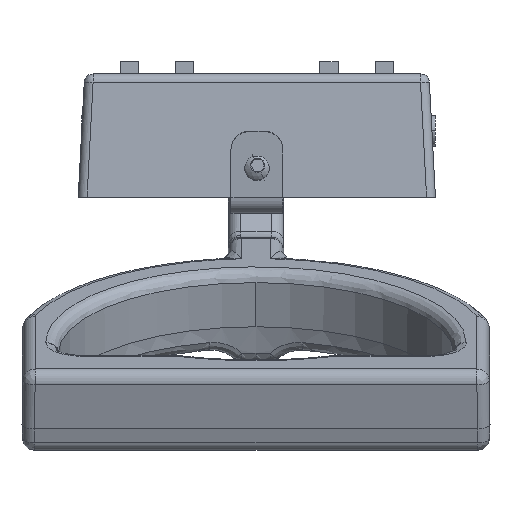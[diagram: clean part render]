
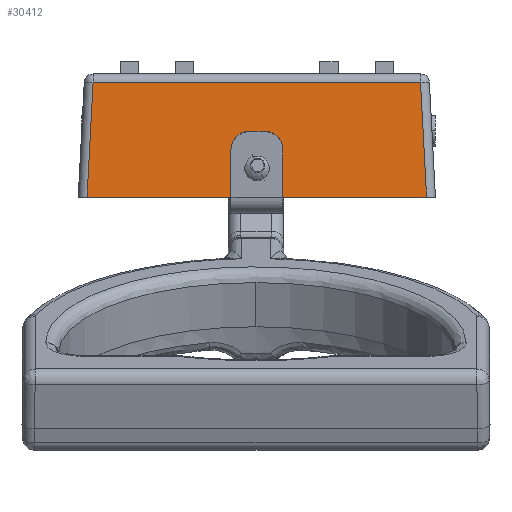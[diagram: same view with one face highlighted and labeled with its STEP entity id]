
A CAD part, front view. The second image highlights one B-rep face of the part: STEP entity #30412.
In plain terms, the highlighted planar face has unit normal (0, -0.999, 0.052).
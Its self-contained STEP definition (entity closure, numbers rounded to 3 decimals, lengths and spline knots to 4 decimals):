
#559 = AXIS2_PLACEMENT_3D ( 'NONE', #37366, #6137, #47851 ) ;
#1744 = PLANE ( 'NONE',  #559 ) ;
#1779 = CARTESIAN_POINT ( 'NONE',  ( 1.7226, -3.0625, 0. ) ) ;
#4182 = EDGE_CURVE ( 'NONE', #57298, #14650, #63103, .T. ) ;
#6137 = DIRECTION ( 'NONE',  ( 0., -0.999, 0.052 ) ) ;
#10841 = FACE_BOUND ( 'NONE', #19200, .T. ) ;
#12599 = EDGE_CURVE ( 'NONE', #66361, #50811, #61094, .T. ) ;
#13488 = CARTESIAN_POINT ( 'NONE',  ( 1.6616, -3.0015, 1.1647 ) ) ;
#13583 = ORIENTED_EDGE ( 'NONE', *, *, #12599, .T. ) ;
#14650 = VERTEX_POINT ( 'NONE', #44402 ) ;
#15106 = ORIENTED_EDGE ( 'NONE', *, *, #25921, .T. ) ;
#15604 = AXIS2_PLACEMENT_3D ( 'NONE', #56055, #24808, #62147 ) ;
#17724 = DIRECTION ( 'NONE',  ( 0., -0.999, 0.052 ) ) ;
#17752 = CARTESIAN_POINT ( 'NONE',  ( -1.7229, -3.0627, -0.0047 ) ) ;
#18130 = VERTEX_POINT ( 'NONE', #31866 ) ;
#18201 = FACE_OUTER_BOUND ( 'NONE', #46325, .T. ) ;
#19199 = CIRCLE ( 'NONE', #31360, 0.0747 ) ;
#19200 = EDGE_LOOP ( 'NONE', ( #46573, #34247 ) ) ;
#22524 = CARTESIAN_POINT ( 'NONE',  ( 0., -3.0494, 0.2497 ) ) ;
#22776 = DIRECTION ( 'NONE',  ( -0.052, -0.052, -0.997 ) ) ;
#24808 = DIRECTION ( 'NONE',  ( 0., -0.999, 0.052 ) ) ;
#25108 = ORIENTED_EDGE ( 'NONE', *, *, #61700, .T. ) ;
#25921 = EDGE_CURVE ( 'NONE', #14650, #66361, #31351, .T. ) ;
#26440 = CARTESIAN_POINT ( 'NONE',  ( 1.713, -3.0528, 0.1843 ) ) ;
#28134 = CIRCLE ( 'NONE', #15604, 0.0747 ) ;
#28288 = CARTESIAN_POINT ( 'NONE',  ( -1.6616, -3.0015, 1.1647 ) ) ;
#30412 = ADVANCED_FACE ( 'NONE', ( #18201, #10841 ), #1744, .T. ) ;
#31351 = LINE ( 'NONE', #40715, #40312 ) ;
#31360 = AXIS2_PLACEMENT_3D ( 'NONE', #22524, #17724, #64667 ) ;
#31866 = CARTESIAN_POINT ( 'NONE',  ( 0., -3.0455, 0.3243 ) ) ;
#34247 = ORIENTED_EDGE ( 'NONE', *, *, #52158, .F. ) ;
#37366 = CARTESIAN_POINT ( 'NONE',  ( -1.8125, -3.0625, 0. ) ) ;
#38025 = VECTOR ( 'NONE', #44314, 39.3701 ) ;
#39112 = ORIENTED_EDGE ( 'NONE', *, *, #4182, .T. ) ;
#40312 = VECTOR ( 'NONE', #63037, 39.3701 ) ;
#40715 = CARTESIAN_POINT ( 'NONE',  ( -1.8125, -3.0625, 0. ) ) ;
#40762 = DIRECTION ( 'NONE',  ( -0.052, 0.052, 0.997 ) ) ;
#44314 = DIRECTION ( 'NONE',  ( -1., 0., 0. ) ) ;
#44402 = CARTESIAN_POINT ( 'NONE',  ( -1.7226, -3.0625, 0. ) ) ;
#46325 = EDGE_LOOP ( 'NONE', ( #15106, #13583, #25108, #39112 ) ) ;
#46573 = ORIENTED_EDGE ( 'NONE', *, *, #52333, .F. ) ;
#46982 = LINE ( 'NONE', #64873, #38025 ) ;
#47851 = DIRECTION ( 'NONE',  ( 0., -0.052, -0.999 ) ) ;
#49817 = VERTEX_POINT ( 'NONE', #57547 ) ;
#50811 = VERTEX_POINT ( 'NONE', #13488 ) ;
#52158 = EDGE_CURVE ( 'NONE', #18130, #49817, #28134, .T. ) ;
#52333 = EDGE_CURVE ( 'NONE', #49817, #18130, #19199, .T. ) ;
#55815 = VECTOR ( 'NONE', #22776, 39.3701 ) ;
#56055 = CARTESIAN_POINT ( 'NONE',  ( 0., -3.0494, 0.2497 ) ) ;
#57298 = VERTEX_POINT ( 'NONE', #28288 ) ;
#57547 = CARTESIAN_POINT ( 'NONE',  ( 0., -3.0533, 0.175 ) ) ;
#59502 = VECTOR ( 'NONE', #40762, 39.3701 ) ;
#61094 = LINE ( 'NONE', #26440, #59502 ) ;
#61700 = EDGE_CURVE ( 'NONE', #50811, #57298, #46982, .T. ) ;
#62147 = DIRECTION ( 'NONE',  ( 0., -0.052, -0.999 ) ) ;
#63037 = DIRECTION ( 'NONE',  ( 1., 0., 0. ) ) ;
#63103 = LINE ( 'NONE', #17752, #55815 ) ;
#64667 = DIRECTION ( 'NONE',  ( 0., -0.052, -0.999 ) ) ;
#64873 = CARTESIAN_POINT ( 'NONE',  ( -1.8125, -3.0015, 1.1647 ) ) ;
#66361 = VERTEX_POINT ( 'NONE', #1779 ) ;
